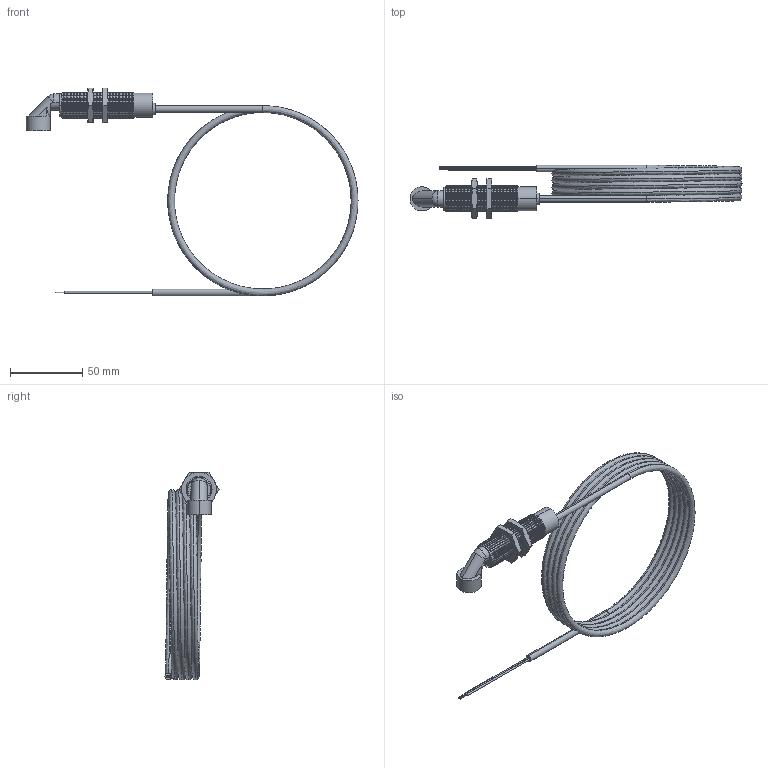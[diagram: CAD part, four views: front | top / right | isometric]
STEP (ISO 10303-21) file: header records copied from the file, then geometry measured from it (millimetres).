
FILE_DESCRIPTION (( 'STEP AP203' ), '1' );
FILE_NAME ('90-29417-084.STEP', '2016-05-26T13:03:12', ( 'Sam' ), ( 'Spade' ), 'SwSTEP 2.0', 'SolidWorks 2002296', '' );
FILE_SCHEMA (( 'CONFIG_CONTROL_DESIGN' ));
Length unit declared in the file: inch
Products named in the file (13): 90-29417-084; Imported; Imported3; Imported2; Imported1; Imported7; Imported6; Imported5; Imported4; Imported11; Imported10; Imported9; Imported8
Assembly tree (12 placements, depth 2):
  90-29417-084
    Imported1
    Imported
    Imported11
    Imported10
    Imported5
    Imported8
    Imported3
    Imported2
    Imported6
    Imported4
    Imported9
    Imported7
Bounding box: 229.84 x 37.45 x 143.83 mm (x, y, z)
Volume: 58289.9 mm3; surface area: 40654.3 mm2
Topology: 12 solids, 12 shells, 556 faces, 1126 edges, 602 vertices
Faces by surface type: cone 262, cylinder 221, plane 62, bspline 11
Entity records: 17342 total; most frequent: CARTESIAN_POINT 4290, DIRECTION 2714, ORIENTED_EDGE 2252, EDGE_CURVE 1126, AXIS2_PLACEMENT_3D 1116, VERTEX_POINT 602, EDGE_LOOP 568, FACE_OUTER_BOUND 556
